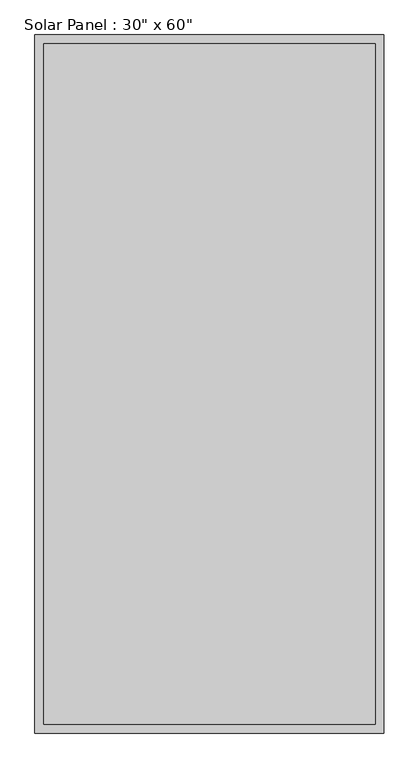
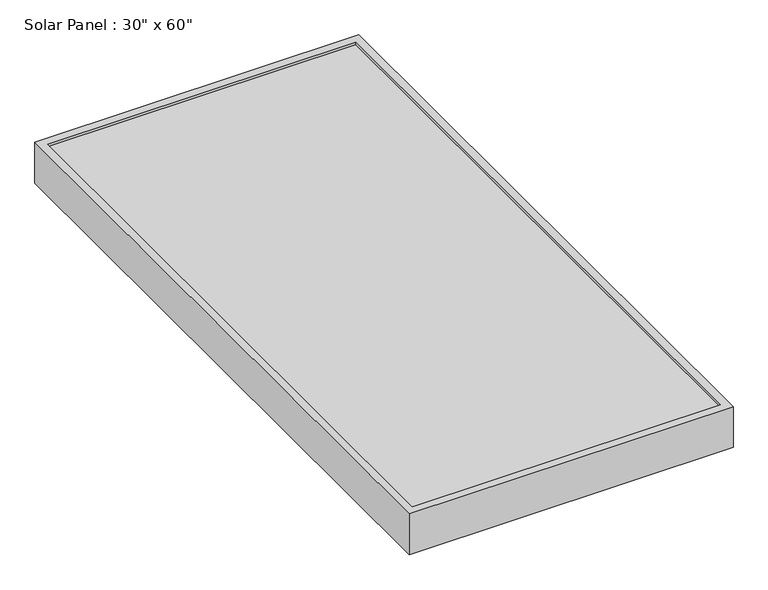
"""IFC4 building model written with IfcOpenShell, lengths in millimetres: proxy geometry."""

from ifc_helpers import new_model, si_unit, origin, origin_with_axes, place, context, project, spatial, polyline, outline, extrude, source, transform, mapped, element, save


def proxy_095db4ba(model_context):
    return source(origin(), model_context, "Body", "SweptSolid", [
        extrude(outline(polyline([(763.27, 1504.95), (763.27, 19.05), (39.37, 19.05), (39.37, 1504.95), (763.27, 1504.95)])), origin_with_axes(), (0.0, 0.0, 1.0), 95.25),
        extrude(outline(polyline([(20.32, 1524.0), (782.32, 1524.0), (782.32, 0.0), (20.32, 0.0), (20.32, 1524.0)]), holes=[polyline([(763.27, 1504.95), (39.37, 1504.95), (39.37, 19.05), (763.27, 19.05), (763.27, 1504.95)])]), origin_with_axes(), (0.0, 0.0, 1.0), 101.6),
    ])


if __name__ == "__main__":
    model = new_model("IFC4")
    model_context = context("Model", 3, world=origin())
    ifc_project = project(units=[si_unit("LENGTHUNIT", "METRE", prefix="MILLI")], contexts=[model_context])
    site = spatial("IfcSite", under=ifc_project)
    building = spatial("IfcBuilding", under=site)
    placement = place(None, origin())
    proxy_shape = proxy_095db4ba(model_context)
    element("IfcBuildingElementProxy", 1, Name="Solar Panel : 30\" x 60\"", ObjectType="Solar Panel : 30\" x 60\"", at=placement, inside=building, context=model_context, shape_type="MappedRepresentation", body=[
        mapped(proxy_shape, transform((0.0, 0.0, 0.0), x_axis=(1.0, 0.0, 0.0), y_axis=(0.0, 1.0, 0.0), z_axis=(0.0, 0.0, 1.0))),
    ])
    save(model, "model.ifc")
